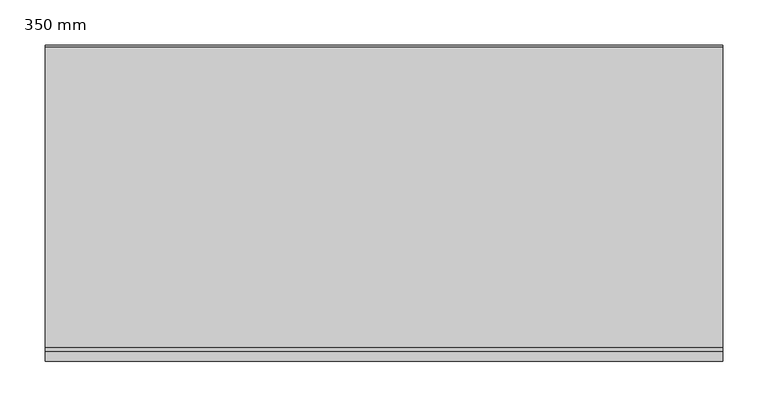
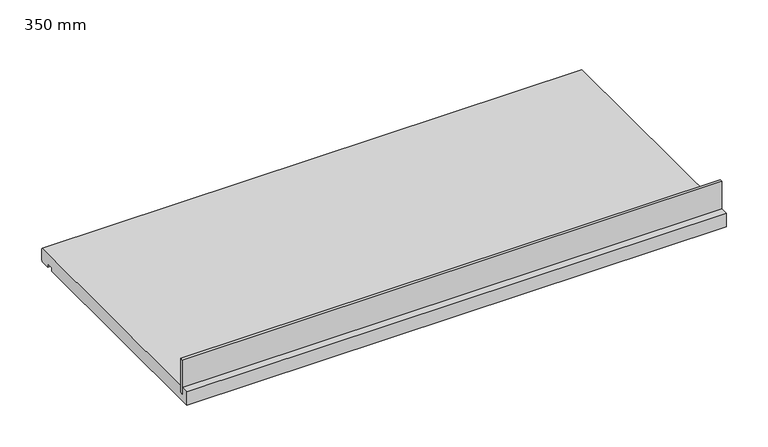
"""IFC4 building model written with IfcOpenShell, lengths in millimetres: proxy geometry, 400_35_NS_raamdorpel_kunststof_klik : 350 mm."""

from ifc_helpers import new_model, si_unit, frame, origin, place, context, project, spatial, polyline, outline, extrude, source, transform, mapped, element, save


def proxy_350_mm_dca82a35(model_context):
    return source(origin(), model_context, "Body", "SweptSolid", [
        extrude(outline(polyline([(-375.0, 11.0), (-375.0, 15.0), (375.0, 15.0), (375.0, 11.0), (-375.0, 11.0)])), frame((0.0, 0.0, 10.0), z_axis=(0.0, 0.0, 1.0), x_axis=(1.0, 0.0, 0.0)), (0.0, 0.0, 1.0), 50.0),
        extrude(outline(polyline([(15.0, 20.0), (348.0, 20.0), (350.0, 18.0), (350.0, 2.0), (348.0, 0.0), (335.0, 0.0), (335.0, 5.0), (325.0, 5.0), (325.0, 0.0), (0.0, 0.0), (0.0, 20.0), (11.0, 20.0), (11.0, 10.0), (15.0, 10.0), (15.0, 20.0)])), frame((-375.0, 0.0, 0.0), z_axis=(1.0, 0.0, 0.0), x_axis=(0.0, 1.0, 0.0)), (0.0, 0.0, 1.0), 750.0),
    ])


if __name__ == "__main__":
    model = new_model("IFC4")
    model_context = context("Model", 3, world=origin())
    ifc_project = project(units=[si_unit("LENGTHUNIT", "METRE", prefix="MILLI")], contexts=[model_context])
    site = spatial("IfcSite", under=ifc_project)
    building = spatial("IfcBuilding", under=site)
    placement = place(None, origin())
    proxy_350_mm_shape = proxy_350_mm_dca82a35(model_context)
    element("IfcBuildingElementProxy", 1, Name="400_35_NS_raamdorpel_kunststof_klik : 350 mm", ObjectType="400_35_NS_raamdorpel_kunststof_klik : 350 mm", at=placement, inside=building, context=model_context, shape_type="MappedRepresentation", body=[
        mapped(proxy_350_mm_shape, transform((0.0, 0.0, 0.0), x_axis=(1.0, 0.0, 0.0), y_axis=(0.0, 1.0, 0.0), z_axis=(0.0, 0.0, 1.0))),
    ])
    save(model, "model.ifc")
